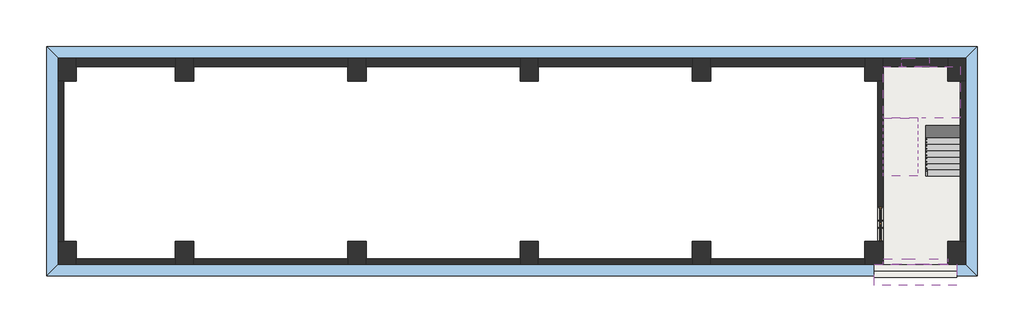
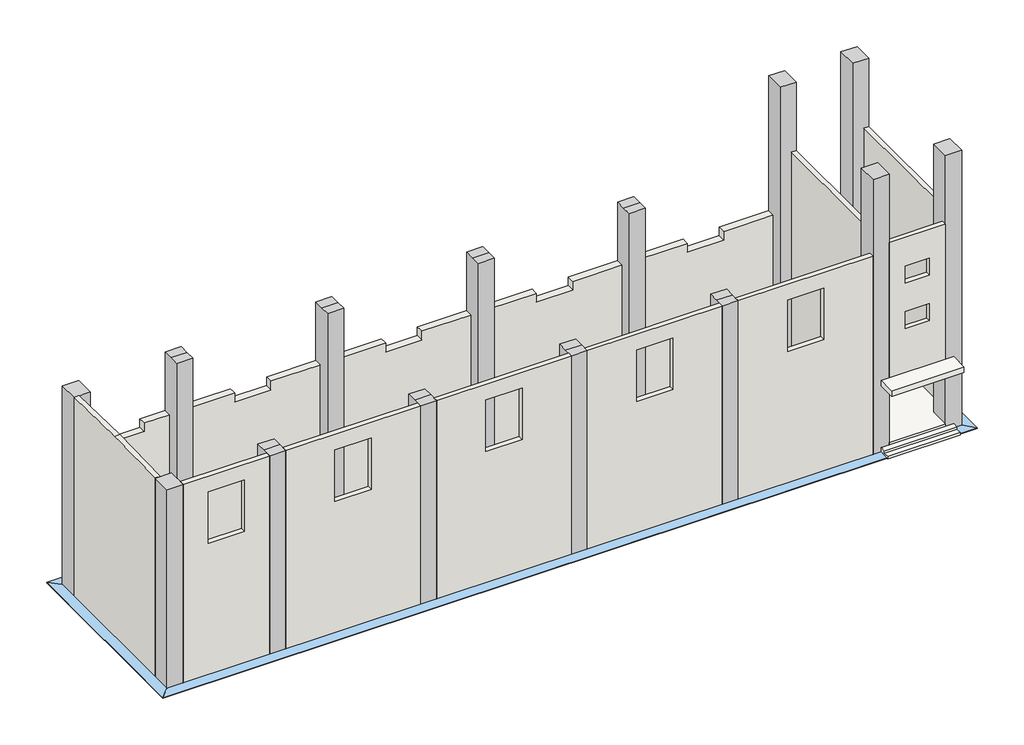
# One storey: 15 walls, 14 columns, 4 slabs, 2 stair flights, 2 windows, 1 door, 1 railing.
"""IFC4 building model written with IfcOpenShell, lengths in millimetres."""

from ifc_helpers import new_model, si_unit, frame, origin, place, context, project, spatial, polyline, outline, extrude, faceted_brep, transform, mapped, element, save
from components import z1_3beb1efb, fm1521_b0fe12bd, slab_393b2294, window_03bd2c34, c1209_eea47d4b

model = new_model("IFC4")

# Units and contexts
model_context = context("Model", 3, world=origin())
ifc_project = project(units=[si_unit("LENGTHUNIT", "METRE", prefix="MILLI")], contexts=[model_context])

# Site, building, storey
site = spatial("IfcSite", under=ifc_project)
building = spatial("IfcBuilding", under=site)
storey = spatial("IfcBuildingStorey", under=building, Name="一层", Elevation=0.0)

# Columns
placement = place(None, origin())
element("IfcColumn", 1, ObjectType="混凝土 - 正方形 - 柱 : Z1", at=placement, inside=storey, context=model_context, shape_type="SweptSolid", body=[
    extrude(outline(polyline([(470.1856454, -400.0), (-529.8143546, -400.0), (-529.8143546, 10080.0), (-28.6144746, 10080.0), (470.1856454, 10089.9760024), (470.1856454, -400.0)])), frame((-4377.8614707, 0.0, 0.0), z_axis=(1.0, 0.0, 0.0), x_axis=(0.0, 1.0, 0.0)), (0.0, 0.0, 1.0), 800.0),
])
element("IfcColumn", 2, ObjectType="混凝土 - 正方形 - 柱 : Z1", at=placement, inside=storey, context=model_context, shape_type="SweptSolid", body=[
    extrude(outline(polyline([(8470.1856454, -400.0), (7470.1856454, -400.0), (7470.1856454, 10089.9760024), (7968.9857654, 10080.0), (8470.1856454, 10080.0), (8470.1856454, -400.0)])), frame((-4377.8614707, 0.0, 0.0), z_axis=(1.0, 0.0, 0.0), x_axis=(0.0, 1.0, 0.0)), (0.0, 0.0, 1.0), 800.0),
])
element("IfcColumn", 3, ObjectType="混凝土 - 正方形 - 柱 : Z1", at=placement, inside=storey, context=model_context, shape_type="SweptSolid", body=[
    extrude(outline(polyline([(470.1856454, -400.0), (-529.8143546, -400.0), (-529.8143546, 10080.0), (-28.6144746, 10080.0), (470.1856454, 10089.9760024), (470.1856454, -400.0)])), frame((3122.1385293, 0.0, 0.0), z_axis=(1.0, 0.0, 0.0), x_axis=(0.0, 1.0, 0.0)), (0.0, 0.0, 1.0), 800.0),
])
element("IfcColumn", 4, ObjectType="混凝土 - 正方形 - 柱 : Z1", at=placement, inside=storey, context=model_context, shape_type="SweptSolid", body=[
    extrude(outline(polyline([(8470.1856454, -400.0), (7470.1856454, -400.0), (7470.1856454, 10089.9760024), (7968.9857654, 10080.0), (8470.1856454, 10080.0), (8470.1856454, -400.0)])), frame((3122.1385293, 0.0, 0.0), z_axis=(1.0, 0.0, 0.0), x_axis=(0.0, 1.0, 0.0)), (0.0, 0.0, 1.0), 800.0),
])
element("IfcColumn", 5, ObjectType="混凝土 - 正方形 - 柱 : Z1", at=placement, inside=storey, context=model_context, shape_type="SweptSolid", body=[
    extrude(outline(polyline([(470.1856454, -400.0), (-529.8143546, -400.0), (-529.8143546, 10080.0), (-28.6144746, 10080.0), (470.1856454, 10089.9760024), (470.1856454, -400.0)])), frame((10622.1385293, 0.0, 0.0), z_axis=(1.0, 0.0, 0.0), x_axis=(0.0, 1.0, 0.0)), (0.0, 0.0, 1.0), 800.0),
])
element("IfcColumn", 6, ObjectType="混凝土 - 正方形 - 柱 : Z1", at=placement, inside=storey, context=model_context, shape_type="SweptSolid", body=[
    extrude(outline(polyline([(8470.1856454, -400.0), (7470.1856454, -400.0), (7470.1856454, 10089.9760024), (7968.9857654, 10080.0), (8470.1856454, 10080.0), (8470.1856454, -400.0)])), frame((10622.1385293, 0.0, 0.0), z_axis=(1.0, 0.0, 0.0), x_axis=(0.0, 1.0, 0.0)), (0.0, 0.0, 1.0), 800.0),
])
element("IfcColumn", 7, ObjectType="混凝土 - 正方形 - 柱 : Z1", at=placement, inside=storey, context=model_context, shape_type="SweptSolid", body=[
    extrude(outline(polyline([(470.1856454, -400.0), (-529.8143546, -400.0), (-529.8143546, 10080.0), (-28.6144746, 10080.0), (470.1856454, 10089.9760024), (470.1856454, -400.0)])), frame((18122.1385293, 0.0, 0.0), z_axis=(1.0, 0.0, 0.0), x_axis=(0.0, 1.0, 0.0)), (0.0, 0.0, 1.0), 800.0),
])
element("IfcColumn", 8, ObjectType="混凝土 - 正方形 - 柱 : Z1", at=placement, inside=storey, context=model_context, shape_type="SweptSolid", body=[
    extrude(outline(polyline([(8470.1856454, -400.0), (7470.1856454, -400.0), (7470.1856454, 10089.9760024), (7968.9857654, 10080.0), (8470.1856454, 10080.0), (8470.1856454, -400.0)])), frame((18122.1385293, 0.0, 0.0), z_axis=(1.0, 0.0, 0.0), x_axis=(0.0, 1.0, 0.0)), (0.0, 0.0, 1.0), 800.0),
])
element("IfcColumn", 9, ObjectType="混凝土 - 正方形 - 柱 : Z1", at=placement, inside=storey, context=model_context, shape_type="SweptSolid", body=[
    extrude(outline(polyline([(26422.1385293, 470.1856454), (26422.1385293, -529.8143546), (25622.1385293, -529.8143546), (25622.1385293, 470.1856454), (26422.1385293, 470.1856454)])), frame((0.0, 0.0, -400.0), z_axis=(0.0, 0.0, 1.0), x_axis=(1.0, 0.0, 0.0)), (0.0, 0.0, 1.0), 14500.0),
])
element("IfcColumn", 10, ObjectType="混凝土 - 正方形 - 柱 : Z1", at=placement, inside=storey, context=model_context, shape_type="SweptSolid", body=[
    extrude(outline(polyline([(26422.1385293, 8470.1856454), (26422.1385293, 7470.1856454), (25622.1385293, 7470.1856454), (25622.1385293, 8470.1856454), (26422.1385293, 8470.1856454)])), frame((0.0, 0.0, -400.0), z_axis=(0.0, 0.0, 1.0), x_axis=(1.0, 0.0, 0.0)), (0.0, 0.0, 1.0), 14500.0),
])
element("IfcColumn", 11, ObjectType="混凝土 - 正方形 - 柱 : Z1", at=placement, inside=storey, context=model_context, shape_type="SweptSolid", body=[
    extrude(outline(polyline([(30022.1385293, 470.1856454), (30022.1385293, -529.8143546), (29222.1385293, -529.8143546), (29222.1385293, 470.1856454), (30022.1385293, 470.1856454)])), frame((0.0, 0.0, -400.0), z_axis=(0.0, 0.0, 1.0), x_axis=(1.0, 0.0, 0.0)), (0.0, 0.0, 1.0), 14500.0),
])
element("IfcColumn", 12, ObjectType="混凝土 - 正方形 - 柱 : Z1", at=placement, inside=storey, context=model_context, shape_type="SweptSolid", body=[
    extrude(outline(polyline([(30022.1385293, 8470.1856454), (30022.1385293, 7470.1856454), (29222.1385293, 7470.1856454), (29222.1385293, 8470.1856454), (30022.1385293, 8470.1856454)])), frame((0.0, 0.0, -400.0), z_axis=(0.0, 0.0, 1.0), x_axis=(1.0, 0.0, 0.0)), (0.0, 0.0, 1.0), 14500.0),
])
z1_shape = z1_3beb1efb(model_context)
element("IfcColumn", 13, ObjectType="混凝土 - 正方形 - 柱 : Z1", at=placement, inside=storey, context=model_context, shape_type="MappedRepresentation", body=[
    mapped(z1_shape, transform((-9077.8614707, -29.8143546, 0.0), x_axis=(1.0, 0.0, 0.0), y_axis=(0.0, 1.0, 0.0), z_axis=(0.0, 0.0, 1.0))),
])
element("IfcColumn", 14, ObjectType="混凝土 - 正方形 - 柱 : Z1", at=placement, inside=storey, context=model_context, shape_type="MappedRepresentation", body=[
    mapped(z1_shape, transform((-9077.8614707, 7970.1856454, 0.0), x_axis=(1.0, 0.0, 0.0), y_axis=(0.0, 1.0, 0.0), z_axis=(0.0, 0.0, 1.0))),
])

# Door
fm1521_shape = fm1521_b0fe12bd(model_context)
element("IfcDoor", 15, ObjectType="双面嵌板玻璃门 : FM1521", at=placement, inside=storey, context=model_context, shape_type="MappedRepresentation", body=[
    mapped(fm1521_shape, transform((26302.1385293, 1220.1856454, 0.0), x_axis=(0.0, -1.0, 0.0), y_axis=(1.0, 0.0, 0.0), z_axis=(0.0, 0.0, 1.0))),
])

# Railing
element("IfcRailing", 16, ObjectType="900mm", at=placement, inside=storey, context=model_context, shape_type="SolidModel", body=[
    faceted_brep([(28282.5385293, 3320.3432269, 1075.0), (28282.5385293, 3320.3432269, 1016.0376179), (28332.5385293, 3320.3432269, 1016.0376179), (28332.5385293, 3320.3432269, 1075.0), (28282.5385293, 5765.7432269, 2603.375), (28282.5385293, 5815.7432269, 2575.6626179), (28332.5385293, 5815.7432269, 2575.6626179), (28332.5385293, 5765.7432269, 2603.375), (28282.5385293, 5765.7432269, 2650.0), (28282.5385293, 5815.7432269, 2600.0), (28332.5385293, 5815.7432269, 2600.0), (28332.5385293, 5765.7432269, 2650.0), (28282.5385293, 5840.7432269, 2650.0), (28282.5385293, 5840.7432269, 2600.0), (28332.5385293, 5890.7432269, 2600.0), (28332.5385293, 5890.7432269, 2650.0), (28207.5385293, 5840.7432269, 2650.0), (28207.5385293, 5840.7432269, 2600.0), (28207.5385293, 5890.7432269, 2600.0), (28207.5385293, 5890.7432269, 2650.0), (27996.7385293, 5840.7432269, 2650.0), (27946.7385293, 5840.7432269, 2600.0), (27946.7385293, 5890.7432269, 2600.0), (27996.7385293, 5890.7432269, 2650.0), (27996.7385293, 5840.7432269, 2871.625), (27946.7385293, 5840.7432269, 2821.625), (27946.7385293, 5890.7432269, 2821.625), (27996.7385293, 5890.7432269, 2871.625), (27921.7385293, 5840.7432269, 2871.625), (27921.7385293, 5840.7432269, 2821.625), (27871.7385293, 5890.7432269, 2821.625), (27871.7385293, 5890.7432269, 2871.625), (27921.7385293, 5765.7432269, 2871.625), (27921.7385293, 5751.4034156, 2821.625), (27871.7385293, 5751.4034156, 2821.625), (27871.7385293, 5765.7432269, 2871.625), (27921.7385293, 3320.3432269, 4400.0), (27871.7385293, 3320.3432269, 4400.0), (27871.7385293, 3320.3432269, 4341.0376179), (27921.7385293, 3320.3432269, 4341.0376179)], [[[0, 1, 2, 3]], [[1, 0, 4, 5]], [[2, 1, 5, 6]], [[3, 2, 6, 7]], [[0, 3, 7, 4]], [[5, 4, 8, 9]], [[6, 5, 9, 10]], [[7, 6, 10, 11]], [[4, 7, 11, 8]], [[9, 8, 12, 13]], [[10, 9, 13, 14]], [[11, 10, 14, 15]], [[8, 11, 15, 12]], [[13, 12, 16, 17]], [[14, 13, 17, 18]], [[15, 14, 18, 19]], [[12, 15, 19, 16]], [[17, 16, 20, 21]], [[18, 17, 21, 22]], [[19, 18, 22, 23]], [[16, 19, 23, 20]], [[21, 20, 24, 25]], [[22, 21, 25, 26]], [[23, 22, 26, 27]], [[20, 23, 27, 24]], [[25, 24, 28, 29]], [[26, 25, 29, 30]], [[27, 26, 30, 31]], [[24, 27, 31, 28]], [[29, 28, 32, 33]], [[30, 29, 33, 34]], [[31, 30, 34, 35]], [[28, 31, 35, 32]], [[36, 37, 38, 39]], [[33, 32, 36, 39]], [[34, 33, 39, 38]], [[35, 34, 38, 37]], [[32, 35, 37, 36]]]),
    extrude(outline(polyline([(3425.7432269, 3325.0), (3405.7432269, 3325.0), (3405.7432269, 4287.6626179), (3425.7432269, 4275.1626179), (3425.7432269, 3325.0)])), frame((27886.7385293, 0.0, 0.0), z_axis=(1.0, 0.0, 0.0), x_axis=(0.0, 1.0, 0.0)), (0.0, 0.0, 1.0), 20.0),
    extrude(outline(polyline([(3565.7432269, 3325.0), (3545.7432269, 3325.0), (3545.7432269, 4200.1626179), (3565.7432269, 4187.6626179), (3565.7432269, 3325.0)])), frame((27886.7385293, 0.0, 0.0), z_axis=(1.0, 0.0, 0.0), x_axis=(0.0, 1.0, 0.0)), (0.0, 0.0, 1.0), 20.0),
    extrude(outline(polyline([(3705.7432269, 3150.0), (3685.7432269, 3150.0), (3685.7432269, 4112.6626179), (3705.7432269, 4100.1626179), (3705.7432269, 3150.0)])), frame((27886.7385293, 0.0, 0.0), z_axis=(1.0, 0.0, 0.0), x_axis=(0.0, 1.0, 0.0)), (0.0, 0.0, 1.0), 20.0),
    extrude(outline(polyline([(3845.7432269, 3150.0), (3825.7432269, 3150.0), (3825.7432269, 4025.1626179), (3845.7432269, 4012.6626179), (3845.7432269, 3150.0)])), frame((27886.7385293, 0.0, 0.0), z_axis=(1.0, 0.0, 0.0), x_axis=(0.0, 1.0, 0.0)), (0.0, 0.0, 1.0), 20.0),
    extrude(outline(polyline([(3985.7432269, 2975.0), (3965.7432269, 2975.0), (3965.7432269, 3937.6626179), (3985.7432269, 3925.1626179), (3985.7432269, 2975.0)])), frame((27886.7385293, 0.0, 0.0), z_axis=(1.0, 0.0, 0.0), x_axis=(0.0, 1.0, 0.0)), (0.0, 0.0, 1.0), 20.0),
    extrude(outline(polyline([(4125.7432269, 2975.0), (4105.7432269, 2975.0), (4105.7432269, 3850.1626179), (4125.7432269, 3837.6626179), (4125.7432269, 2975.0)])), frame((27886.7385293, 0.0, 0.0), z_axis=(1.0, 0.0, 0.0), x_axis=(0.0, 1.0, 0.0)), (0.0, 0.0, 1.0), 20.0),
    extrude(outline(polyline([(4265.7432269, 2800.0), (4245.7432269, 2800.0), (4245.7432269, 3762.6626179), (4265.7432269, 3750.1626179), (4265.7432269, 2800.0)])), frame((27886.7385293, 0.0, 0.0), z_axis=(1.0, 0.0, 0.0), x_axis=(0.0, 1.0, 0.0)), (0.0, 0.0, 1.0), 20.0),
    extrude(outline(polyline([(4405.7432269, 2800.0), (4385.7432269, 2800.0), (4385.7432269, 3675.1626179), (4405.7432269, 3662.6626179), (4405.7432269, 2800.0)])), frame((27886.7385293, 0.0, 0.0), z_axis=(1.0, 0.0, 0.0), x_axis=(0.0, 1.0, 0.0)), (0.0, 0.0, 1.0), 20.0),
    extrude(outline(polyline([(4545.7432269, 2625.0), (4525.7432269, 2625.0), (4525.7432269, 3587.6626179), (4545.7432269, 3575.1626179), (4545.7432269, 2625.0)])), frame((27886.7385293, 0.0, 0.0), z_axis=(1.0, 0.0, 0.0), x_axis=(0.0, 1.0, 0.0)), (0.0, 0.0, 1.0), 20.0),
    extrude(outline(polyline([(4685.7432269, 2625.0), (4665.7432269, 2625.0), (4665.7432269, 3500.1626179), (4685.7432269, 3487.6626179), (4685.7432269, 2625.0)])), frame((27886.7385293, 0.0, 0.0), z_axis=(1.0, 0.0, 0.0), x_axis=(0.0, 1.0, 0.0)), (0.0, 0.0, 1.0), 20.0),
    extrude(outline(polyline([(4825.7432269, 2450.0), (4805.7432269, 2450.0), (4805.7432269, 3412.6626179), (4825.7432269, 3400.1626179), (4825.7432269, 2450.0)])), frame((27886.7385293, 0.0, 0.0), z_axis=(1.0, 0.0, 0.0), x_axis=(0.0, 1.0, 0.0)), (0.0, 0.0, 1.0), 20.0),
    extrude(outline(polyline([(4965.7432269, 2450.0), (4945.7432269, 2450.0), (4945.7432269, 3325.1626179), (4965.7432269, 3312.6626179), (4965.7432269, 2450.0)])), frame((27886.7385293, 0.0, 0.0), z_axis=(1.0, 0.0, 0.0), x_axis=(0.0, 1.0, 0.0)), (0.0, 0.0, 1.0), 20.0),
    extrude(outline(polyline([(5105.7432269, 2275.0), (5085.7432269, 2275.0), (5085.7432269, 3237.6626179), (5105.7432269, 3225.1626179), (5105.7432269, 2275.0)])), frame((27886.7385293, 0.0, 0.0), z_axis=(1.0, 0.0, 0.0), x_axis=(0.0, 1.0, 0.0)), (0.0, 0.0, 1.0), 20.0),
    extrude(outline(polyline([(5245.7432269, 2275.0), (5225.7432269, 2275.0), (5225.7432269, 3150.1626179), (5245.7432269, 3137.6626179), (5245.7432269, 2275.0)])), frame((27886.7385293, 0.0, 0.0), z_axis=(1.0, 0.0, 0.0), x_axis=(0.0, 1.0, 0.0)), (0.0, 0.0, 1.0), 20.0),
    extrude(outline(polyline([(5385.7432269, 2100.0), (5365.7432269, 2100.0), (5365.7432269, 3062.6626179), (5385.7432269, 3050.1626179), (5385.7432269, 2100.0)])), frame((27886.7385293, 0.0, 0.0), z_axis=(1.0, 0.0, 0.0), x_axis=(0.0, 1.0, 0.0)), (0.0, 0.0, 1.0), 20.0),
    extrude(outline(polyline([(5525.7432269, 2100.0), (5505.7432269, 2100.0), (5505.7432269, 2975.1626179), (5525.7432269, 2962.6626179), (5525.7432269, 2100.0)])), frame((27886.7385293, 0.0, 0.0), z_axis=(1.0, 0.0, 0.0), x_axis=(0.0, 1.0, 0.0)), (0.0, 0.0, 1.0), 20.0),
    extrude(outline(polyline([(5665.7432269, 1925.0), (5645.7432269, 1925.0), (5645.7432269, 2887.6626179), (5665.7432269, 2875.1626179), (5665.7432269, 1925.0)])), frame((27886.7385293, 0.0, 0.0), z_axis=(1.0, 0.0, 0.0), x_axis=(0.0, 1.0, 0.0)), (0.0, 0.0, 1.0), 20.0),
    extrude(outline(polyline([(27906.7385293, 5805.7432269), (27906.7385293, 5785.7432269), (27886.7385293, 5785.7432269), (27886.7385293, 5805.7432269), (27906.7385293, 5805.7432269)])), frame((0.0, 0.0, 1925.0), z_axis=(0.0, 0.0, 1.0), x_axis=(1.0, 0.0, 0.0)), (0.0, 0.0, 1.0), 896.625),
    extrude(outline(polyline([(27967.5385293, 5855.7432269), (27947.5385293, 5855.7432269), (27947.5385293, 5875.7432269), (27967.5385293, 5875.7432269), (27967.5385293, 5855.7432269)])), frame((0.0, 0.0, 1750.0), z_axis=(0.0, 0.0, 1.0), x_axis=(1.0, 0.0, 0.0)), (0.0, 0.0, 1.0), 850.0),
    extrude(outline(polyline([(28107.5385293, 5855.7432269), (28087.5385293, 5855.7432269), (28087.5385293, 5875.7432269), (28107.5385293, 5875.7432269), (28107.5385293, 5855.7432269)])), frame((0.0, 0.0, 1750.0), z_axis=(0.0, 0.0, 1.0), x_axis=(1.0, 0.0, 0.0)), (0.0, 0.0, 1.0), 850.0),
    extrude(outline(polyline([(28247.5385293, 5855.7432269), (28227.5385293, 5855.7432269), (28227.5385293, 5875.7432269), (28247.5385293, 5875.7432269), (28247.5385293, 5855.7432269)])), frame((0.0, 0.0, 1750.0), z_axis=(0.0, 0.0, 1.0), x_axis=(1.0, 0.0, 0.0)), (0.0, 0.0, 1.0), 850.0),
    extrude(outline(polyline([(5760.3432269, 2541.0376179), (5780.3432269, 2553.5376179), (5780.3432269, 1575.0), (5760.3432269, 1575.0), (5760.3432269, 2541.0376179)])), frame((28297.5385293, 0.0, 0.0), z_axis=(1.0, 0.0, 0.0), x_axis=(0.0, 1.0, 0.0)), (0.0, 0.0, 1.0), 20.0),
    extrude(outline(polyline([(5620.3432269, 2453.5376179), (5640.3432269, 2466.0376179), (5640.3432269, 1575.0), (5620.3432269, 1575.0), (5620.3432269, 2453.5376179)])), frame((28297.5385293, 0.0, 0.0), z_axis=(1.0, 0.0, 0.0), x_axis=(0.0, 1.0, 0.0)), (0.0, 0.0, 1.0), 20.0),
    extrude(outline(polyline([(5480.3432269, 2366.0376179), (5500.3432269, 2378.5376179), (5500.3432269, 1400.0), (5480.3432269, 1400.0), (5480.3432269, 2366.0376179)])), frame((28297.5385293, 0.0, 0.0), z_axis=(1.0, 0.0, 0.0), x_axis=(0.0, 1.0, 0.0)), (0.0, 0.0, 1.0), 20.0),
    extrude(outline(polyline([(5340.3432269, 2278.5376179), (5360.3432269, 2291.0376179), (5360.3432269, 1400.0), (5340.3432269, 1400.0), (5340.3432269, 2278.5376179)])), frame((28297.5385293, 0.0, 0.0), z_axis=(1.0, 0.0, 0.0), x_axis=(0.0, 1.0, 0.0)), (0.0, 0.0, 1.0), 20.0),
    extrude(outline(polyline([(5200.3432269, 2191.0376179), (5220.3432269, 2203.5376179), (5220.3432269, 1225.0), (5200.3432269, 1225.0), (5200.3432269, 2191.0376179)])), frame((28297.5385293, 0.0, 0.0), z_axis=(1.0, 0.0, 0.0), x_axis=(0.0, 1.0, 0.0)), (0.0, 0.0, 1.0), 20.0),
    extrude(outline(polyline([(5060.3432269, 2103.5376179), (5080.3432269, 2116.0376179), (5080.3432269, 1225.0), (5060.3432269, 1225.0), (5060.3432269, 2103.5376179)])), frame((28297.5385293, 0.0, 0.0), z_axis=(1.0, 0.0, 0.0), x_axis=(0.0, 1.0, 0.0)), (0.0, 0.0, 1.0), 20.0),
    extrude(outline(polyline([(4920.3432269, 2016.0376179), (4940.3432269, 2028.5376179), (4940.3432269, 1050.0), (4920.3432269, 1050.0), (4920.3432269, 2016.0376179)])), frame((28297.5385293, 0.0, 0.0), z_axis=(1.0, 0.0, 0.0), x_axis=(0.0, 1.0, 0.0)), (0.0, 0.0, 1.0), 20.0),
    extrude(outline(polyline([(4780.3432269, 1928.5376179), (4800.3432269, 1941.0376179), (4800.3432269, 1050.0), (4780.3432269, 1050.0), (4780.3432269, 1928.5376179)])), frame((28297.5385293, 0.0, 0.0), z_axis=(1.0, 0.0, 0.0), x_axis=(0.0, 1.0, 0.0)), (0.0, 0.0, 1.0), 20.0),
    extrude(outline(polyline([(4640.3432269, 1841.0376179), (4660.3432269, 1853.5376179), (4660.3432269, 875.0), (4640.3432269, 875.0), (4640.3432269, 1841.0376179)])), frame((28297.5385293, 0.0, 0.0), z_axis=(1.0, 0.0, 0.0), x_axis=(0.0, 1.0, 0.0)), (0.0, 0.0, 1.0), 20.0),
    extrude(outline(polyline([(4500.3432269, 1753.5376179), (4520.3432269, 1766.0376179), (4520.3432269, 875.0), (4500.3432269, 875.0), (4500.3432269, 1753.5376179)])), frame((28297.5385293, 0.0, 0.0), z_axis=(1.0, 0.0, 0.0), x_axis=(0.0, 1.0, 0.0)), (0.0, 0.0, 1.0), 20.0),
    extrude(outline(polyline([(4360.3432269, 1666.0376179), (4380.3432269, 1678.5376179), (4380.3432269, 700.0), (4360.3432269, 700.0), (4360.3432269, 1666.0376179)])), frame((28297.5385293, 0.0, 0.0), z_axis=(1.0, 0.0, 0.0), x_axis=(0.0, 1.0, 0.0)), (0.0, 0.0, 1.0), 20.0),
    extrude(outline(polyline([(4220.3432269, 1578.5376179), (4240.3432269, 1591.0376179), (4240.3432269, 700.0), (4220.3432269, 700.0), (4220.3432269, 1578.5376179)])), frame((28297.5385293, 0.0, 0.0), z_axis=(1.0, 0.0, 0.0), x_axis=(0.0, 1.0, 0.0)), (0.0, 0.0, 1.0), 20.0),
    extrude(outline(polyline([(4080.3432269, 1491.0376179), (4100.3432269, 1503.5376179), (4100.3432269, 525.0), (4080.3432269, 525.0), (4080.3432269, 1491.0376179)])), frame((28297.5385293, 0.0, 0.0), z_axis=(1.0, 0.0, 0.0), x_axis=(0.0, 1.0, 0.0)), (0.0, 0.0, 1.0), 20.0),
    extrude(outline(polyline([(3940.3432269, 1403.5376179), (3960.3432269, 1416.0376179), (3960.3432269, 525.0), (3940.3432269, 525.0), (3940.3432269, 1403.5376179)])), frame((28297.5385293, 0.0, 0.0), z_axis=(1.0, 0.0, 0.0), x_axis=(0.0, 1.0, 0.0)), (0.0, 0.0, 1.0), 20.0),
    extrude(outline(polyline([(3800.3432269, 1316.0376179), (3820.3432269, 1328.5376179), (3820.3432269, 350.0), (3800.3432269, 350.0), (3800.3432269, 1316.0376179)])), frame((28297.5385293, 0.0, 0.0), z_axis=(1.0, 0.0, 0.0), x_axis=(0.0, 1.0, 0.0)), (0.0, 0.0, 1.0), 20.0),
    extrude(outline(polyline([(3660.3432269, 1228.5376179), (3680.3432269, 1241.0376179), (3680.3432269, 350.0), (3660.3432269, 350.0), (3660.3432269, 1228.5376179)])), frame((28297.5385293, 0.0, 0.0), z_axis=(1.0, 0.0, 0.0), x_axis=(0.0, 1.0, 0.0)), (0.0, 0.0, 1.0), 20.0),
    extrude(outline(polyline([(3520.3432269, 1141.0376179), (3540.3432269, 1153.5376179), (3540.3432269, 175.0), (3520.3432269, 175.0), (3520.3432269, 1141.0376179)])), frame((28297.5385293, 0.0, 0.0), z_axis=(1.0, 0.0, 0.0), x_axis=(0.0, 1.0, 0.0)), (0.0, 0.0, 1.0), 20.0),
    extrude(outline(polyline([(3380.3432269, 1053.5376179), (3400.3432269, 1066.0376179), (3400.3432269, 175.0), (3380.3432269, 175.0), (3380.3432269, 1053.5376179)])), frame((28297.5385293, 0.0, 0.0), z_axis=(1.0, 0.0, 0.0), x_axis=(0.0, 1.0, 0.0)), (0.0, 0.0, 1.0), 20.0),
    extrude(outline(polyline([(27906.7385293, 5875.7432269), (27906.7385293, 5855.7432269), (27886.7385293, 5855.7432269), (27886.7385293, 5875.7432269), (27906.7385293, 5875.7432269)])), frame((0.0, 0.0, 1750.0), z_axis=(0.0, 0.0, 1.0), x_axis=(1.0, 0.0, 0.0)), (0.0, 0.0, 1.0), 1071.625),
    extrude(outline(polyline([(28297.5385293, 5855.7432269), (28297.5385293, 5875.7432269), (28317.5385293, 5875.7432269), (28317.5385293, 5855.7432269), (28297.5385293, 5855.7432269)])), frame((0.0, 0.0, 1750.0), z_axis=(0.0, 0.0, 1.0), x_axis=(1.0, 0.0, 0.0)), (0.0, 0.0, 1.0), 850.0),
    extrude(outline(polyline([(28297.5385293, 5830.3432269), (28297.5385293, 5850.3432269), (28317.5385293, 5850.3432269), (28317.5385293, 5830.3432269), (28297.5385293, 5830.3432269)])), frame((0.0, 0.0, 1750.0), z_axis=(0.0, 0.0, 1.0), x_axis=(1.0, 0.0, 0.0)), (0.0, 0.0, 1.0), 850.0),
    extrude(outline(polyline([(3340.3432269, 3325.0), (3320.3432269, 3325.0), (3320.3432269, 4341.0376179), (3340.3432269, 4328.5376179), (3340.3432269, 3325.0)])), frame((27886.7385293, 0.0, 0.0), z_axis=(1.0, 0.0, 0.0), x_axis=(0.0, 1.0, 0.0)), (0.0, 0.0, 1.0), 20.0),
    extrude(outline(polyline([(3320.3432269, 1016.0376179), (3340.3432269, 1028.5376179), (3340.3432269, 175.0), (3320.3432269, 175.0), (3320.3432269, 1016.0376179)])), frame((28297.5385293, 0.0, 0.0), z_axis=(1.0, 0.0, 0.0), x_axis=(0.0, 1.0, 0.0)), (0.0, 0.0, 1.0), 20.0),
])

# Slabs
element("IfcSlab", 17, ObjectType="常规 - 150mm - 实心", at=placement, inside=storey, context=model_context, shape_type="SweptSolid", body=[
    extrude(outline(polyline([(29222.1385293, 8100.1856454), (29222.1385293, 7470.1856454), (29782.1385293, 7470.1856454), (29782.1385293, 470.1856454), (29222.1385293, 470.1856454), (29222.1385293, -529.8143546), (26422.1385293, -529.8143546), (26422.1385293, 470.1856454), (26182.1385293, 470.1856454), (26182.1385293, 7470.1856454), (26422.1385293, 7470.1856454), (26422.1385293, 8100.1856454), (29222.1385293, 8100.1856454)])), frame((0.0, 0.0, -150.0), z_axis=(0.0, 0.0, 1.0), x_axis=(1.0, 0.0, 0.0)), (0.0, 0.0, 1.0), 150.0),
])
element("IfcSlab", 18, ObjectType="常规 - 300mm", at=placement, inside=storey, context=model_context, shape_type="SweptSolid", body=[
    extrude(outline(polyline([(29622.1385293, -529.8143546), (29622.1385293, -1429.8143546), (26022.1385293, -1429.8143546), (26022.1385293, -529.8143546), (29622.1385293, -529.8143546)])), frame((0.0, 0.0, 3100.0), z_axis=(0.0, 0.0, 1.0), x_axis=(1.0, 0.0, 0.0)), (0.0, 0.0, 1.0), 300.0),
])
element("IfcSlab", 19, ObjectType="300mm 厚度", at=placement, inside=storey, context=model_context, shape_type="Brep", body=[
    faceted_brep([(28282.1385293, 5840.3432269, 1750.0), (29782.1385293, 5840.3432269, 1750.0), (29782.1385293, 5923.3626608, 1750.0), (29782.1385293, 8099.1856454, 1750.0), (26422.1385293, 8099.1856454, 1750.0), (26422.1385293, 6037.3237929, 1750.0), (26422.1385293, 5840.3432269, 1750.0), (27922.1385293, 5840.3432269, 1750.0), (28282.1385293, 5840.3432269, 1450.0), (28282.1385293, 5840.3432269, 1398.1128538), (29782.1385293, 5840.3432269, 1398.1128538), (29782.1385293, 5840.3432269, 1575.0), (29782.1385293, 5923.3626608, 1450.0), (29782.1385293, 8099.1856454, 1450.0), (26422.1385293, 8099.1856454, 1450.0), (26422.1385293, 6037.3237929, 1450.0), (26422.1385293, 5840.3432269, 1573.1128538), (27922.1385293, 5840.3432269, 1573.1128538), (27922.1385293, 5840.3432269, 1450.0), (27922.1385293, 6037.3237929, 1450.0), (28282.1385293, 5923.3626608, 1450.0)], [[[0, 1, 2, 3, 4, 5, 6, 7]], [[1, 0, 8, 9, 10, 11]], [[1, 11, 10, 12, 13, 3, 2]], [[4, 3, 13, 14]], [[4, 14, 15, 16, 6, 5]], [[7, 6, 16, 17]], [[0, 7, 17, 18, 8]], [[18, 19, 15, 14, 13, 12, 20, 8]], [[19, 18, 17]], [[20, 12, 10, 9]], [[8, 20, 9]], [[15, 19, 17, 16]]]),
])
slab_shape = slab_393b2294(model_context)
element("IfcSlab", 20, ObjectType="结构基础 1 : 结构基础 1", at=placement, inside=storey, context=model_context, shape_type="MappedRepresentation", body=[
    mapped(slab_shape, transform((0.0, 0.0, 0.0), x_axis=(1.0, 0.0, 0.0), y_axis=(0.0, 1.0, 0.0), z_axis=(0.0, 0.0, 1.0))),
])

# Stair flights
element("IfcStairFlight", 21, ObjectType="150mm 结构深度", at=placement, inside=storey, context=model_context, shape_type="Brep", body=[
    faceted_brep([(28282.1385293, 3600.3432269, 175.0), (28282.1385293, 3320.3432269, 175.0), (29782.1385293, 3320.3432269, 175.0), (29782.1385293, 3600.3432269, 175.0), (28282.1385293, 3600.3432269, 0.0), (28282.1385293, 3320.3432269, 0.0), (29782.1385293, 3320.3432269, 0.0), (29782.1385293, 3600.3432269, 0.0), (28282.1385293, 3880.3432269, 350.0), (28282.1385293, 3600.3432269, 350.0), (29782.1385293, 3600.3432269, 350.0), (29782.1385293, 3880.3432269, 350.0), (28282.1385293, 3880.3432269, 173.1128538), (28282.1385293, 3603.3626608, 0.0), (29782.1385293, 3603.3626608, 0.0), (29782.1385293, 3880.3432269, 173.1128538), (28282.1385293, 4160.3432269, 525.0), (28282.1385293, 3880.3432269, 525.0), (29782.1385293, 3880.3432269, 525.0), (29782.1385293, 4160.3432269, 525.0), (28282.1385293, 4160.3432269, 348.1128538), (29782.1385293, 4160.3432269, 348.1128538), (28282.1385293, 4440.3432269, 700.0), (28282.1385293, 4160.3432269, 700.0), (29782.1385293, 4160.3432269, 700.0), (29782.1385293, 4440.3432269, 700.0), (28282.1385293, 4440.3432269, 523.1128538), (29782.1385293, 4440.3432269, 523.1128538), (28282.1385293, 4720.3432269, 875.0), (28282.1385293, 4440.3432269, 875.0), (29782.1385293, 4440.3432269, 875.0), (29782.1385293, 4720.3432269, 875.0), (28282.1385293, 4720.3432269, 698.1128538), (29782.1385293, 4720.3432269, 698.1128538), (28282.1385293, 5000.3432269, 1050.0), (28282.1385293, 4720.3432269, 1050.0), (29782.1385293, 4720.3432269, 1050.0), (29782.1385293, 5000.3432269, 1050.0), (28282.1385293, 5000.3432269, 873.1128538), (29782.1385293, 5000.3432269, 873.1128538), (28282.1385293, 5280.3432269, 1225.0), (28282.1385293, 5000.3432269, 1225.0), (29782.1385293, 5000.3432269, 1225.0), (29782.1385293, 5280.3432269, 1225.0), (28282.1385293, 5280.3432269, 1048.1128538), (29782.1385293, 5280.3432269, 1048.1128538), (28282.1385293, 5560.3432269, 1400.0), (28282.1385293, 5280.3432269, 1400.0), (29782.1385293, 5280.3432269, 1400.0), (29782.1385293, 5560.3432269, 1400.0), (28282.1385293, 5560.3432269, 1223.1128538), (29782.1385293, 5560.3432269, 1223.1128538), (28282.1385293, 5840.3432269, 1575.0), (28282.1385293, 5560.3432269, 1575.0), (29782.1385293, 5560.3432269, 1575.0), (29782.1385293, 5840.3432269, 1575.0), (28282.1385293, 5840.3432269, 1450.0), (28282.1385293, 5840.3432269, 1398.1128538), (29782.1385293, 5840.3432269, 1398.1128538)], [[[0, 1, 2, 3]], [[1, 0, 4, 5]], [[2, 1, 5, 6]], [[3, 2, 6, 7]], [[8, 9, 10, 11]], [[4, 0, 9, 8, 12, 13]], [[0, 3, 10, 9]], [[3, 7, 14, 15, 11, 10]], [[16, 17, 18, 19]], [[17, 16, 20, 12, 8]], [[8, 11, 18, 17]], [[19, 18, 11, 15, 21]], [[22, 23, 24, 25]], [[23, 22, 26, 20, 16]], [[16, 19, 24, 23]], [[25, 24, 19, 21, 27]], [[28, 29, 30, 31]], [[29, 28, 32, 26, 22]], [[22, 25, 30, 29]], [[31, 30, 25, 27, 33]], [[34, 35, 36, 37]], [[35, 34, 38, 32, 28]], [[28, 31, 36, 35]], [[37, 36, 31, 33, 39]], [[40, 41, 42, 43]], [[41, 40, 44, 38, 34]], [[34, 37, 42, 41]], [[43, 42, 37, 39, 45]], [[46, 47, 48, 49]], [[47, 46, 50, 44, 40]], [[40, 43, 48, 47]], [[49, 48, 43, 45, 51]], [[52, 53, 54, 55]], [[53, 52, 56, 57, 50, 46]], [[46, 49, 54, 53]], [[55, 54, 49, 51, 58]], [[52, 55, 58, 57, 56]], [[5, 4, 13, 14, 7, 6]], [[14, 13, 12, 20, 26, 32, 38, 44, 50, 57, 58, 51, 45, 39, 33, 27, 21, 15]]]),
])
element("IfcStairFlight", 22, ObjectType="150mm 结构深度", at=placement, inside=storey, context=model_context, shape_type="Brep", body=[
    faceted_brep([(27922.1385293, 5560.3432269, 1925.0), (27922.1385293, 5840.3432269, 1925.0), (26422.1385293, 5840.3432269, 1925.0), (26422.1385293, 5560.3432269, 1925.0), (27922.1385293, 5560.3432269, 1748.1128538), (27922.1385293, 5840.3432269, 1573.1128538), (26422.1385293, 5840.3432269, 1573.1128538), (26422.1385293, 5840.3432269, 1750.0), (26422.1385293, 5560.3432269, 1748.1128538), (27922.1385293, 5280.3432269, 2100.0), (27922.1385293, 5560.3432269, 2100.0), (26422.1385293, 5560.3432269, 2100.0), (26422.1385293, 5280.3432269, 2100.0), (27922.1385293, 5280.3432269, 1923.1128538), (26422.1385293, 5280.3432269, 1923.1128538), (27922.1385293, 5000.3432269, 2275.0), (27922.1385293, 5280.3432269, 2275.0), (26422.1385293, 5280.3432269, 2275.0), (26422.1385293, 5000.3432269, 2275.0), (27922.1385293, 5000.3432269, 2098.1128538), (26422.1385293, 5000.3432269, 2098.1128538), (27922.1385293, 4720.3432269, 2450.0), (27922.1385293, 5000.3432269, 2450.0), (26422.1385293, 5000.3432269, 2450.0), (26422.1385293, 4720.3432269, 2450.0), (27922.1385293, 4720.3432269, 2273.1128538), (26422.1385293, 4720.3432269, 2273.1128538), (27922.1385293, 4440.3432269, 2625.0), (27922.1385293, 4720.3432269, 2625.0), (26422.1385293, 4720.3432269, 2625.0), (26422.1385293, 4440.3432269, 2625.0), (27922.1385293, 4440.3432269, 2448.1128538), (26422.1385293, 4440.3432269, 2448.1128538), (27922.1385293, 4160.3432269, 2800.0), (27922.1385293, 4440.3432269, 2800.0), (26422.1385293, 4440.3432269, 2800.0), (26422.1385293, 4160.3432269, 2800.0), (27922.1385293, 4160.3432269, 2623.1128538), (26422.1385293, 4160.3432269, 2623.1128538), (27922.1385293, 3880.3432269, 2975.0), (27922.1385293, 4160.3432269, 2975.0), (26422.1385293, 4160.3432269, 2975.0), (26422.1385293, 3880.3432269, 2975.0), (27922.1385293, 3880.3432269, 2798.1128538), (26422.1385293, 3880.3432269, 2798.1128538), (27922.1385293, 3600.3432269, 3150.0), (27922.1385293, 3880.3432269, 3150.0), (26422.1385293, 3880.3432269, 3150.0), (26422.1385293, 3600.3432269, 3150.0), (27922.1385293, 3600.3432269, 2973.1128538), (26422.1385293, 3600.3432269, 2973.1128538), (27922.1385293, 3320.3432269, 3325.0), (27922.1385293, 3600.3432269, 3325.0), (26422.1385293, 3600.3432269, 3325.0), (26422.1385293, 3320.3432269, 3325.0), (27922.1385293, 3320.3432269, 3148.1128538), (26422.1385293, 3320.3432269, 3148.1128538)], [[[0, 1, 2, 3]], [[1, 0, 4, 5]], [[2, 1, 5, 6, 7]], [[3, 2, 7, 6, 8]], [[9, 10, 11, 12]], [[10, 9, 13, 4, 0]], [[11, 10, 0, 3]], [[12, 11, 3, 8, 14]], [[15, 16, 17, 18]], [[16, 15, 19, 13, 9]], [[17, 16, 9, 12]], [[18, 17, 12, 14, 20]], [[21, 22, 23, 24]], [[22, 21, 25, 19, 15]], [[23, 22, 15, 18]], [[24, 23, 18, 20, 26]], [[27, 28, 29, 30]], [[28, 27, 31, 25, 21]], [[29, 28, 21, 24]], [[30, 29, 24, 26, 32]], [[33, 34, 35, 36]], [[34, 33, 37, 31, 27]], [[35, 34, 27, 30]], [[36, 35, 30, 32, 38]], [[39, 40, 41, 42]], [[40, 39, 43, 37, 33]], [[41, 40, 33, 36]], [[42, 41, 36, 38, 44]], [[45, 46, 47, 48]], [[46, 45, 49, 43, 39]], [[47, 46, 39, 42]], [[48, 47, 42, 44, 50]], [[51, 52, 53, 54]], [[52, 51, 55, 49, 45]], [[53, 52, 45, 48]], [[54, 53, 48, 50, 56]], [[51, 54, 56, 55]], [[5, 4, 13, 19, 25, 31, 37, 43, 49, 55, 56, 50, 44, 38, 32, 26, 20, 14, 8, 6]]]),
])

# Walls
element("IfcWall", 23, ObjectType="370mm墙", at=placement, inside=storey, context=model_context, shape_type="Brep", body=[
    faceted_brep([(-8677.8614707, 8100.1856454, -400.0), (-4377.8614707, 8100.1856454, -400.0), (-4377.8614707, 8100.1856454, 7000.0), (-5627.8614707, 8100.1856454, 7000.0), (-5627.8614707, 8100.1856454, 6550.0), (-7427.8614707, 8100.1856454, 6550.0), (-7427.8614707, 8100.1856454, 7000.0), (-8677.8614707, 8100.1856454, 7000.0), (-4377.8614707, 8470.1856454, -400.0), (-8677.8614707, 8470.1856454, -400.0), (-8677.8614707, 8470.1856454, 7000.0), (-7427.8614707, 8470.1856454, 7000.0), (-7427.8614707, 8470.1856454, 6550.0), (-5627.8614707, 8470.1856454, 6550.0), (-5627.8614707, 8470.1856454, 7000.0), (-4377.8614707, 8470.1856454, 7000.0), (-4377.8614707, 8230.1856454, 7000.0), (-5627.8614707, 8230.1856454, 7000.0), (-8677.8614707, 8230.1856454, 7000.0), (-7427.8614707, 8230.1856454, 7000.0)], [[[0, 1, 2, 3, 4, 5, 6, 7]], [[8, 9, 10, 11, 12, 13, 14, 15]], [[1, 0, 9, 8]], [[2, 1, 8, 15, 16]], [[2, 16, 15, 14, 17, 3]], [[10, 18, 7, 6, 19, 11]], [[0, 7, 18, 10, 9]], [[5, 12, 11, 19, 6]], [[13, 4, 3, 17, 14]], [[12, 5, 4, 13]]]),
])
element("IfcWall", 24, ObjectType="370mm墙", at=placement, inside=storey, context=model_context, shape_type="Brep", body=[
    faceted_brep([(-3577.8614707, 8100.1856454, -400.0), (3122.1385293, 8100.1856454, -400.0), (3122.1385293, 8100.1856454, 7000.0), (672.1385293, 8100.1856454, 7000.0), (672.1385293, 8100.1856454, 6550.0), (-1127.8614707, 8100.1856454, 6550.0), (-1127.8614707, 8100.1856454, 7000.0), (-3577.8614707, 8100.1856454, 7000.0), (3122.1385293, 8470.1856454, -400.0), (-3577.8614707, 8470.1856454, -400.0), (-3577.8614707, 8470.1856454, 7000.0), (-1127.8614707, 8470.1856454, 7000.0), (-1127.8614707, 8470.1856454, 6550.0), (672.1385293, 8470.1856454, 6550.0), (672.1385293, 8470.1856454, 7000.0), (3122.1385293, 8470.1856454, 7000.0), (3122.1385293, 8230.1856454, 7000.0), (672.1385293, 8230.1856454, 7000.0), (-3577.8614707, 8230.1856454, 7000.0), (-1127.8614707, 8230.1856454, 7000.0)], [[[0, 1, 2, 3, 4, 5, 6, 7]], [[8, 9, 10, 11, 12, 13, 14, 15]], [[1, 0, 9, 8]], [[2, 1, 8, 15, 16]], [[2, 16, 15, 14, 17, 3]], [[10, 18, 7, 6, 19, 11]], [[0, 7, 18, 10, 9]], [[5, 12, 11, 19, 6]], [[13, 4, 3, 17, 14]], [[12, 5, 4, 13]]]),
])
element("IfcWall", 25, ObjectType="370mm墙", at=placement, inside=storey, context=model_context, shape_type="Brep", body=[
    faceted_brep([(3922.1385293, 8100.1856454, -400.0), (10622.1385293, 8100.1856454, -400.0), (10622.1385293, 8100.1856454, 7000.0), (8172.1385293, 8100.1856454, 7000.0), (8172.1385293, 8100.1856454, 6550.0), (6372.1385293, 8100.1856454, 6550.0), (6372.1385293, 8100.1856454, 7000.0), (3922.1385293, 8100.1856454, 7000.0), (10622.1385293, 8470.1856454, -400.0), (3922.1385293, 8470.1856454, -400.0), (3922.1385293, 8470.1856454, 7000.0), (6372.1385293, 8470.1856454, 7000.0), (6372.1385293, 8470.1856454, 6550.0), (8172.1385293, 8470.1856454, 6550.0), (8172.1385293, 8470.1856454, 7000.0), (10622.1385293, 8470.1856454, 7000.0), (10622.1385293, 8230.1856454, 7000.0), (8172.1385293, 8230.1856454, 7000.0), (3922.1385293, 8230.1856454, 7000.0), (6372.1385293, 8230.1856454, 7000.0)], [[[0, 1, 2, 3, 4, 5, 6, 7]], [[8, 9, 10, 11, 12, 13, 14, 15]], [[1, 0, 9, 8]], [[2, 1, 8, 15, 16]], [[2, 16, 15, 14, 17, 3]], [[10, 18, 7, 6, 19, 11]], [[0, 7, 18, 10, 9]], [[5, 12, 11, 19, 6]], [[13, 4, 3, 17, 14]], [[12, 5, 4, 13]]]),
])
element("IfcWall", 26, ObjectType="370mm墙", at=placement, inside=storey, context=model_context, shape_type="Brep", body=[
    faceted_brep([(11422.1385293, 8100.1856454, -400.0), (18122.1385293, 8100.1856454, -400.0), (18122.1385293, 8100.1856454, 7000.0), (15672.1385293, 8100.1856454, 7000.0), (15672.1385293, 8100.1856454, 6550.0), (13872.1385293, 8100.1856454, 6550.0), (13872.1385293, 8100.1856454, 7000.0), (11422.1385293, 8100.1856454, 7000.0), (18122.1385293, 8470.1856454, -400.0), (11422.1385293, 8470.1856454, -400.0), (11422.1385293, 8470.1856454, 7000.0), (13872.1385293, 8470.1856454, 7000.0), (13872.1385293, 8470.1856454, 6550.0), (15672.1385293, 8470.1856454, 6550.0), (15672.1385293, 8470.1856454, 7000.0), (18122.1385293, 8470.1856454, 7000.0), (18122.1385293, 8230.1856454, 7000.0), (15672.1385293, 8230.1856454, 7000.0), (11422.1385293, 8230.1856454, 7000.0), (13872.1385293, 8230.1856454, 7000.0)], [[[0, 1, 2, 3, 4, 5, 6, 7]], [[8, 9, 10, 11, 12, 13, 14, 15]], [[1, 0, 9, 8]], [[2, 1, 8, 15, 16]], [[2, 16, 15, 14, 17, 3]], [[10, 18, 7, 6, 19, 11]], [[0, 7, 18, 10, 9]], [[5, 12, 11, 19, 6]], [[13, 4, 3, 17, 14]], [[12, 5, 4, 13]]]),
])
element("IfcWall", 27, ObjectType="370mm墙", at=placement, inside=storey, context=model_context, shape_type="Brep", body=[
    faceted_brep([(18922.1385293, 8100.1856454, -400.0), (25622.1385293, 8100.1856454, -400.0), (25622.1385293, 8100.1856454, 7000.0), (23172.1385293, 8100.1856454, 7000.0), (23172.1385293, 8100.1856454, 6550.0), (21372.1385293, 8100.1856454, 6550.0), (21372.1385293, 8100.1856454, 7000.0), (18922.1385293, 8100.1856454, 7000.0), (25622.1385293, 8470.1856454, -400.0), (18922.1385293, 8470.1856454, -400.0), (18922.1385293, 8470.1856454, 7000.0), (21372.1385293, 8470.1856454, 7000.0), (21372.1385293, 8470.1856454, 6550.0), (23172.1385293, 8470.1856454, 6550.0), (23172.1385293, 8470.1856454, 7000.0), (25622.1385293, 8470.1856454, 7000.0), (25622.1385293, 8230.1856454, 7000.0), (23172.1385293, 8230.1856454, 7000.0), (18922.1385293, 8230.1856454, 7000.0), (21372.1385293, 8230.1856454, 7000.0)], [[[0, 1, 2, 3, 4, 5, 6, 7]], [[8, 9, 10, 11, 12, 13, 14, 15]], [[1, 0, 9, 8]], [[2, 1, 8, 15, 16]], [[2, 16, 15, 14, 17, 3]], [[10, 18, 7, 6, 19, 11]], [[0, 7, 18, 10, 9]], [[5, 12, 11, 19, 6]], [[13, 4, 3, 17, 14]], [[12, 5, 4, 13]]]),
])
element("IfcWall", 28, ObjectType="370mm墙", at=placement, inside=storey, context=model_context, shape_type="Brep", body=[
    faceted_brep([(26422.1385293, 8100.1856454, -400.0), (29222.1385293, 8100.1856454, -400.0), (29222.1385293, 8100.1856454, 4850.0), (26422.1385293, 8100.1856454, 4850.0), (28422.1385293, 8100.1856454, 3750.0), (28422.1385293, 8100.1856454, 2850.0), (27222.1385293, 8100.1856454, 2850.0), (27222.1385293, 8100.1856454, 3750.0), (26422.1385293, 8470.1856454, -400.0), (26422.1385293, 8470.1856454, 4850.0), (29222.1385293, 8470.1856454, 4850.0), (29222.1385293, 8470.1856454, -400.0), (28422.1385293, 8470.1856454, 3750.0), (27222.1385293, 8470.1856454, 3750.0), (27222.1385293, 8470.1856454, 2850.0), (28422.1385293, 8470.1856454, 2850.0), (29222.1385293, 8230.1856454, 4850.0), (26422.1385293, 8230.1856454, 4850.0)], [[[0, 1, 2, 3], [4, 5, 6, 7]], [[8, 9, 10, 11], [12, 13, 14, 15]], [[1, 0, 8, 11]], [[2, 1, 11, 10, 16]], [[3, 2, 16, 10, 9, 17]], [[0, 3, 17, 9, 8]], [[5, 4, 12, 15]], [[6, 5, 15, 14]], [[7, 6, 14, 13]], [[4, 7, 13, 12]]]),
])
element("IfcWall", 29, ObjectType="240mm厚墙", at=placement, inside=storey, context=model_context, shape_type="SweptSolid", body=[
    extrude(outline(polyline([(29782.1385293, 470.1856454), (29782.1385293, 7470.1856454), (30022.1385293, 7470.1856454), (30022.1385293, 470.1856454), (29782.1385293, 470.1856454)])), frame((0.0, 0.0, -400.0), z_axis=(0.0, 0.0, 1.0), x_axis=(1.0, 0.0, 0.0)), (0.0, 0.0, 1.0), 10900.0),
])
element("IfcWall", 30, ObjectType="240mm厚墙", at=placement, inside=storey, context=model_context, shape_type="SweptSolid", body=[
    extrude(outline(polyline([(3100.0, 29222.1385293), (10500.0, 29222.1385293), (10500.0, 26422.1385293), (3100.0, 26422.1385293), (3100.0, 29222.1385293)]), holes=[polyline([(6600.0, 27222.1385293), (6600.0, 28422.1385293), (5700.0, 28422.1385293), (5700.0, 27222.1385293), (6600.0, 27222.1385293)]), polyline([(9000.0, 27222.1385293), (9000.0, 28422.1385293), (8100.0, 28422.1385293), (8100.0, 27222.1385293), (9000.0, 27222.1385293)])]), frame((0.0, -529.8143546, 0.0), z_axis=(0.0, 1.0, 0.0), x_axis=(0.0, 0.0, 1.0)), (0.0, 0.0, 1.0), 240.0),
])
element("IfcWall", 31, ObjectType="240mm厚墙", at=placement, inside=storey, context=model_context, shape_type="SweptSolid", body=[
    extrude(outline(polyline([(-400.0, 25622.1385293), (10080.0, 25622.1385293), (10080.0, 18922.1385293), (-400.0, 18922.1385293), (-400.0, 25622.1385293)]), holes=[polyline([(6550.0, 21372.1385293), (9250.0, 21372.1385293), (9250.0, 23172.1385293), (6550.0, 23172.1385293), (6550.0, 21372.1385293)])]), frame((0.0, -529.8143546, 0.0), z_axis=(0.0, 1.0, 0.0), x_axis=(0.0, 0.0, 1.0)), (0.0, 0.0, 1.0), 240.0),
])
element("IfcWall", 32, ObjectType="240mm厚墙", at=placement, inside=storey, context=model_context, shape_type="SweptSolid", body=[
    extrude(outline(polyline([(-400.0, 18122.1385293), (10080.0, 18122.1385293), (10080.0, 11422.1385293), (-400.0, 11422.1385293), (-400.0, 18122.1385293)]), holes=[polyline([(6550.0, 13872.1385293), (9250.0, 13872.1385293), (9250.0, 15672.1385293), (6550.0, 15672.1385293), (6550.0, 13872.1385293)])]), frame((0.0, -529.8143546, 0.0), z_axis=(0.0, 1.0, 0.0), x_axis=(0.0, 0.0, 1.0)), (0.0, 0.0, 1.0), 240.0),
])
element("IfcWall", 33, ObjectType="240mm厚墙", at=placement, inside=storey, context=model_context, shape_type="SweptSolid", body=[
    extrude(outline(polyline([(-400.0, 10622.1385293), (10080.0, 10622.1385293), (10080.0, 3922.1385293), (-400.0, 3922.1385293), (-400.0, 10622.1385293)]), holes=[polyline([(6550.0, 6372.1385293), (9250.0, 6372.1385293), (9250.0, 8172.1385293), (6550.0, 8172.1385293), (6550.0, 6372.1385293)])]), frame((0.0, -529.8143546, 0.0), z_axis=(0.0, 1.0, 0.0), x_axis=(0.0, 0.0, 1.0)), (0.0, 0.0, 1.0), 240.0),
])
element("IfcWall", 34, ObjectType="240mm厚墙", at=placement, inside=storey, context=model_context, shape_type="SweptSolid", body=[
    extrude(outline(polyline([(-400.0, 3122.1385293), (10080.0, 3122.1385293), (10080.0, -3577.8614707), (-400.0, -3577.8614707), (-400.0, 3122.1385293)]), holes=[polyline([(6550.0, -1127.8614707), (9250.0, -1127.8614707), (9250.0, 672.1385293), (6550.0, 672.1385293), (6550.0, -1127.8614707)])]), frame((0.0, -529.8143546, 0.0), z_axis=(0.0, 1.0, 0.0), x_axis=(0.0, 0.0, 1.0)), (0.0, 0.0, 1.0), 240.0),
])
element("IfcWall", 35, ObjectType="240mm厚墙", at=placement, inside=storey, context=model_context, shape_type="SweptSolid", body=[
    extrude(outline(polyline([(-400.0, -4377.8614707), (10080.0, -4377.8614707), (10080.0, -8677.8614707), (-400.0, -8677.8614707), (-400.0, -4377.8614707)]), holes=[polyline([(6550.0, -7427.8614707), (9250.0, -7427.8614707), (9250.0, -5627.8614707), (6550.0, -5627.8614707), (6550.0, -7427.8614707)])]), frame((0.0, -529.8143546, 0.0), z_axis=(0.0, 1.0, 0.0), x_axis=(0.0, 0.0, 1.0)), (0.0, 0.0, 1.0), 240.0),
])
element("IfcWall", 36, ObjectType="240mm厚墙", at=placement, inside=storey, context=model_context, shape_type="SweptSolid", body=[
    extrude(outline(polyline([(470.1856454, -400.0), (470.1856454, 10089.9760024), (3970.1856454, 10159.9760024), (7470.1856454, 10089.9760024), (7470.1856454, -400.0), (470.1856454, -400.0)])), frame((-9477.8614707, 0.0, 0.0), z_axis=(1.0, 0.0, 0.0), x_axis=(0.0, 1.0, 0.0)), (0.0, 0.0, 1.0), 240.0),
])
element("IfcWall", 37, ObjectType="240mm厚墙", at=placement, inside=storey, context=model_context, shape_type="Brep", body=[
    faceted_brep([(26422.1385293, 470.1856454, -400.0), (26422.1385293, 7470.1856454, -400.0), (26422.1385293, 7470.1856454, 10500.0), (26422.1385293, 1970.1856454, 10500.0), (26422.1385293, 470.1856454, 10500.0), (26422.1385293, 470.1856454, 2100.0), (26422.1385293, 1970.1856454, 2100.0), (26422.1385293, 1970.1856454, 0.0), (26422.1385293, 470.1856454, 0.0), (26182.1385293, 7470.1856454, -400.0), (26182.1385293, 470.1856454, -400.0), (26182.1385293, 470.1856454, 0.0), (26182.1385293, 1970.1856454, 0.0), (26182.1385293, 1970.1856454, 2100.0), (26182.1385293, 470.1856454, 2100.0), (26182.1385293, 470.1856454, 10500.0), (26182.1385293, 1970.1856454, 10500.0), (26182.1385293, 7470.1856454, 10500.0)], [[[0, 1, 2, 3, 4, 5, 6, 7, 8]], [[9, 10, 11, 12, 13, 14, 15, 16, 17]], [[1, 0, 10, 9]], [[2, 1, 9, 17]], [[4, 3, 2, 17, 16, 15]], [[4, 15, 14, 5]], [[10, 0, 8, 11]], [[13, 6, 5, 14]], [[6, 13, 12, 7]], [[7, 12, 11, 8]]]),
])

# Windows
window_shape = window_03bd2c34(model_context)
element("IfcWindow", 38, ObjectType="散水 : 散水", at=placement, inside=storey, context=model_context, shape_type="MappedRepresentation", body=[
    mapped(window_shape, transform((0.0, 0.0, 0.0), x_axis=(1.0, 0.0, 0.0), y_axis=(0.0, 1.0, 0.0), z_axis=(0.0, 0.0, 1.0))),
])
c1209_shape = c1209_eea47d4b(model_context)
element("IfcWindow", 39, ObjectType="推拉窗6 : C1209", at=placement, inside=storey, context=model_context, shape_type="MappedRepresentation", body=[
    mapped(c1209_shape, transform((27812.6135293, 8352.0590829, 650.0), x_axis=(1.0, 0.0, 0.0), y_axis=(0.0, 1.0, 0.0), z_axis=(0.0, 0.0, 1.0))),
])

save(model, "model.ifc")
